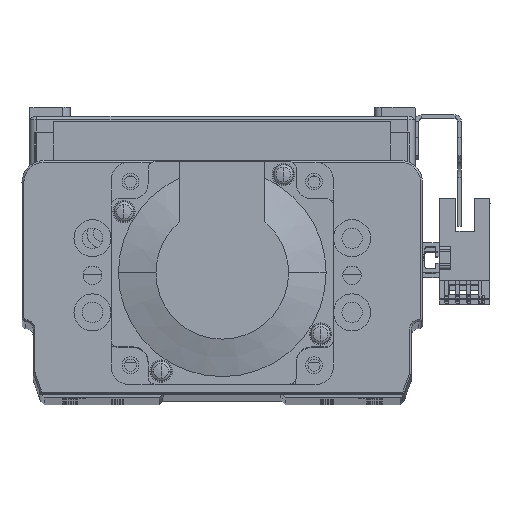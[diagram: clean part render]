
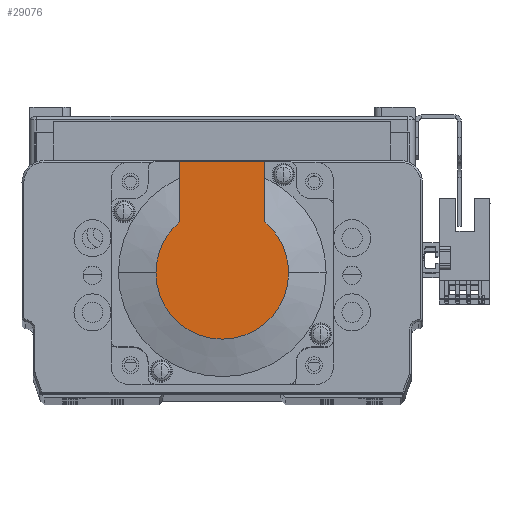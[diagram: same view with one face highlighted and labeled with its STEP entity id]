
A CAD part, top view. The second image highlights one B-rep face of the part: STEP entity #29076.
In plain terms, the highlighted planar face has unit normal (0, 0, 1) as drawn and (-1, 0, 0) by its records, which use the part's own axes.
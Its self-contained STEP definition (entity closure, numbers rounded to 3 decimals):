
#6084 = EDGE_LOOP ( 'NONE', ( #21985, #21968, #21960, #21996, #21991, #21998 ) ) ;
#11626 = AXIS2_PLACEMENT_3D ( 'NONE', #50766, #50767, #50772 ) ;
#11744 = AXIS2_PLACEMENT_3D ( 'NONE', #50889, #50913, #50915 ) ;
#14258 = PLANE ( 'NONE',  #34304 ) ;
#14281 = DIRECTION ( 'NONE',  ( -1., 0., 0. ) ) ;
#14287 = DIRECTION ( 'NONE',  ( 0., 0., 1. ) ) ;
#14299 = CARTESIAN_POINT ( 'NONE',  ( -99., -8.941, 0. ) ) ;
#16132 = CARTESIAN_POINT ( 'NONE',  ( -99., 30., -11.45 ) ) ;
#16301 = CARTESIAN_POINT ( 'NONE',  ( -99., 30., 11.45 ) ) ;
#20202 = FACE_OUTER_BOUND ( 'NONE', #6084, .T. ) ;
#20620 = DIRECTION ( 'NONE',  ( -1., 0., 0. ) ) ;
#20639 = CARTESIAN_POINT ( 'NONE',  ( -99., 0., 0. ) ) ;
#20648 = DIRECTION ( 'NONE',  ( 0., 0., -1. ) ) ;
#20752 = DIRECTION ( 'NONE',  ( 0., 0., 1. ) ) ;
#20767 = CARTESIAN_POINT ( 'NONE',  ( -99., 30., 25. ) ) ;
#20785 = DIRECTION ( 'NONE',  ( 0., -1., 0. ) ) ;
#20803 = CARTESIAN_POINT ( 'NONE',  ( -99., 0., 11.45 ) ) ;
#21960 = ORIENTED_EDGE ( 'NONE', *, *, #59615, .T. ) ;
#21968 = ORIENTED_EDGE ( 'NONE', *, *, #39751, .T. ) ;
#21985 = ORIENTED_EDGE ( 'NONE', *, *, #39714, .T. ) ;
#21991 = ORIENTED_EDGE ( 'NONE', *, *, #39822, .F. ) ;
#21996 = ORIENTED_EDGE ( 'NONE', *, *, #59568, .T. ) ;
#21998 = ORIENTED_EDGE ( 'NONE', *, *, #39796, .F. ) ;
#23859 = AXIS2_PLACEMENT_3D ( 'NONE', #20639, #20620, #20648 ) ;
#26075 = VERTEX_POINT ( 'NONE', #16132 ) ;
#26172 = VERTEX_POINT ( 'NONE', #16301 ) ;
#27739 = CARTESIAN_POINT ( 'NONE',  ( -99., -8.941, -11.45 ) ) ;
#27766 = DIRECTION ( 'NONE',  ( 0., -1., 0. ) ) ;
#29076 = ADVANCED_FACE ( 'NONE', ( #20202 ), #14258, .T. ) ;
#29899 = VERTEX_POINT ( 'NONE', #37673 ) ;
#31028 = VERTEX_POINT ( 'NONE', #41900 ) ;
#31034 = VERTEX_POINT ( 'NONE', #41857 ) ;
#31086 = VERTEX_POINT ( 'NONE', #41937 ) ;
#34304 = AXIS2_PLACEMENT_3D ( 'NONE', #14299, #14281, #14287 ) ;
#37673 = CARTESIAN_POINT ( 'NONE',  ( -99., 13.735, -11.45 ) ) ;
#39714 = EDGE_CURVE ( 'NONE', #26075, #29899, #45677, .T. ) ;
#39751 = EDGE_CURVE ( 'NONE', #29899, #31034, #45678, .T. ) ;
#39796 = EDGE_CURVE ( 'NONE', #26075, #26172, #45767, .T. ) ;
#39822 = EDGE_CURVE ( 'NONE', #26172, #31028, #45803, .T. ) ;
#41857 = CARTESIAN_POINT ( 'NONE',  ( -99., 0., -17.881 ) ) ;
#41900 = CARTESIAN_POINT ( 'NONE',  ( -99., 13.735, 11.45 ) ) ;
#41937 = CARTESIAN_POINT ( 'NONE',  ( -99., 0., 17.881 ) ) ;
#45677 = LINE ( 'NONE', #27739, #45686 ) ;
#45678 = CIRCLE ( 'NONE', #23859, 17.881 ) ;
#45686 = VECTOR ( 'NONE', #27766, 1000. ) ;
#45765 = VECTOR ( 'NONE', #20785, 1000. ) ;
#45767 = LINE ( 'NONE', #20767, #45773 ) ;
#45773 = VECTOR ( 'NONE', #20752, 1000. ) ;
#45803 = LINE ( 'NONE', #20803, #45765 ) ;
#50766 = CARTESIAN_POINT ( 'NONE',  ( -99., 0., 0. ) ) ;
#50767 = DIRECTION ( 'NONE',  ( -1., 0., 0. ) ) ;
#50772 = DIRECTION ( 'NONE',  ( 0., 0., -1. ) ) ;
#50889 = CARTESIAN_POINT ( 'NONE',  ( -99., 0., 0. ) ) ;
#50913 = DIRECTION ( 'NONE',  ( -1., 0., 0. ) ) ;
#50915 = DIRECTION ( 'NONE',  ( 0., 0., -1. ) ) ;
#51389 = CIRCLE ( 'NONE', #11626, 17.881 ) ;
#51437 = CIRCLE ( 'NONE', #11744, 17.881 ) ;
#59568 = EDGE_CURVE ( 'NONE', #31086, #31028, #51389, .T. ) ;
#59615 = EDGE_CURVE ( 'NONE', #31034, #31086, #51437, .T. ) ;
